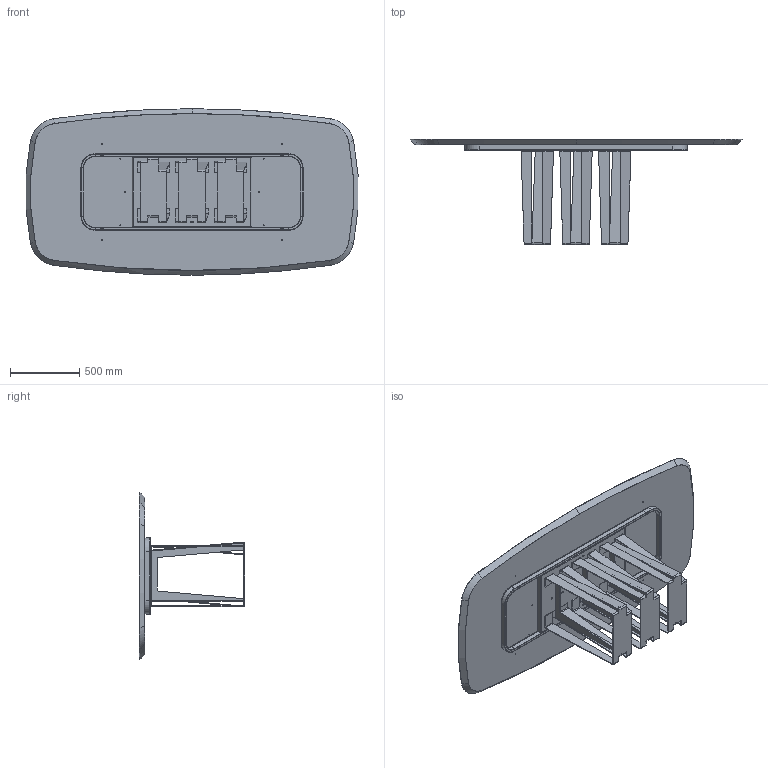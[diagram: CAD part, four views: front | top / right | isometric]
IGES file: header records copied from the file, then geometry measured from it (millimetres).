
Start section: SolidWorks IGES file using analytic representation for surfaces
Global section: file name: Y:\eforma\TECNICO\SOLIDWORKS\E-FORMA\1-TAVOLI\NARCISO\02 parts\NA43W.IGS; native system: SolidWorks 2022; preprocessor: SolidWorks 2022; author: eforma.tech; date: 240807.163853; units: millimetre
Bounding box: 2391.9 x 758 x 1200 mm (x, y, z)
Volume: 108553666.8 mm3; surface area: 10338960 mm2
Topology: 26 solids, 26 shells, 1154 faces, 2825 edges, 1698 vertices
Faces by surface type: plane 577, revolution 541, bspline 36
